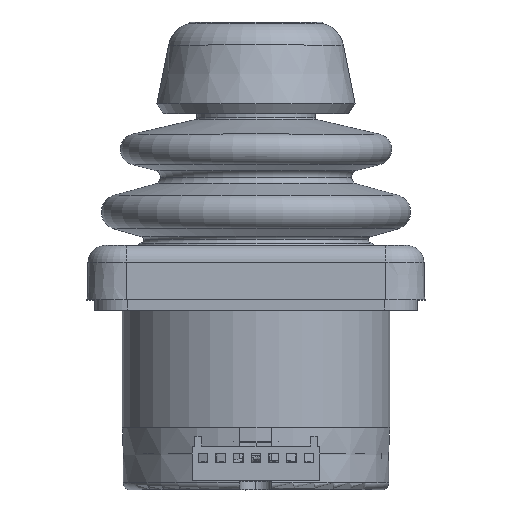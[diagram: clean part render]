
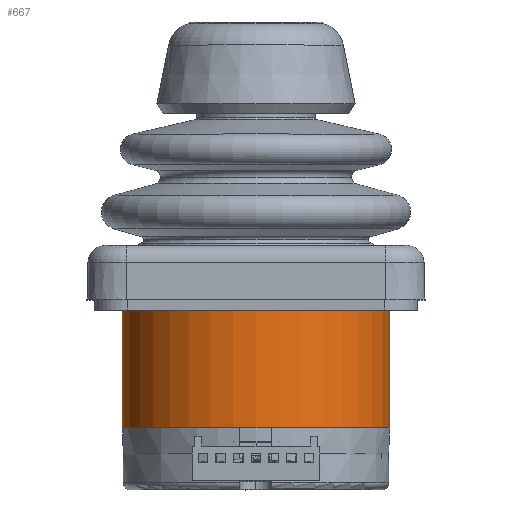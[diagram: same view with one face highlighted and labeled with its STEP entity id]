
A CAD part, top view. The second image highlights one B-rep face of the part: STEP entity #667.
In plain terms, the highlighted cylindrical face has radius 19.25 mm (diameter 38.5 mm), a partial arc.
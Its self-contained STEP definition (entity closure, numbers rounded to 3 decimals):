
#667 = ADVANCED_FACE('',(#668),#704,.T.);
#668 = FACE_BOUND('',#669,.T.);
#669 = EDGE_LOOP('',(#670,#681,#689,#698));
#670 = ORIENTED_EDGE('',*,*,#671,.F.);
#671 = EDGE_CURVE('',#672,#674,#676,.T.);
#672 = VERTEX_POINT('',#673);
#673 = CARTESIAN_POINT('',(-19.25,0.,-18.));
#674 = VERTEX_POINT('',#675);
#675 = CARTESIAN_POINT('',(19.25,0.,-18.));
#676 = CIRCLE('',#677,19.25);
#677 = AXIS2_PLACEMENT_3D('',#678,#679,#680);
#678 = CARTESIAN_POINT('',(0.,0.,-18.));
#679 = DIRECTION('',(0.,0.,-1.));
#680 = DIRECTION('',(-1.,0.,0.));
#681 = ORIENTED_EDGE('',*,*,#682,.T.);
#682 = EDGE_CURVE('',#672,#683,#685,.T.);
#683 = VERTEX_POINT('',#684);
#684 = CARTESIAN_POINT('',(-19.25,0.,0.));
#685 = LINE('',#686,#687);
#686 = CARTESIAN_POINT('',(-19.25,0.,-12.5));
#687 = VECTOR('',#688,1.);
#688 = DIRECTION('',(-0.,-0.,1.));
#689 = ORIENTED_EDGE('',*,*,#690,.T.);
#690 = EDGE_CURVE('',#683,#691,#693,.T.);
#691 = VERTEX_POINT('',#692);
#692 = CARTESIAN_POINT('',(19.25,0.,0.));
#693 = CIRCLE('',#694,19.25);
#694 = AXIS2_PLACEMENT_3D('',#695,#696,#697);
#695 = CARTESIAN_POINT('',(0.,0.,0.));
#696 = DIRECTION('',(0.,0.,-1.));
#697 = DIRECTION('',(-1.,0.,0.));
#698 = ORIENTED_EDGE('',*,*,#699,.F.);
#699 = EDGE_CURVE('',#674,#691,#700,.T.);
#700 = LINE('',#701,#702);
#701 = CARTESIAN_POINT('',(19.25,0.,-12.5));
#702 = VECTOR('',#703,1.);
#703 = DIRECTION('',(-0.,-0.,1.));
#704 = CYLINDRICAL_SURFACE('',#705,19.25);
#705 = AXIS2_PLACEMENT_3D('',#706,#707,#708);
#706 = CARTESIAN_POINT('',(0.,0.,-12.5));
#707 = DIRECTION('',(-0.,-0.,1.));
#708 = DIRECTION('',(1.,0.,0.));
